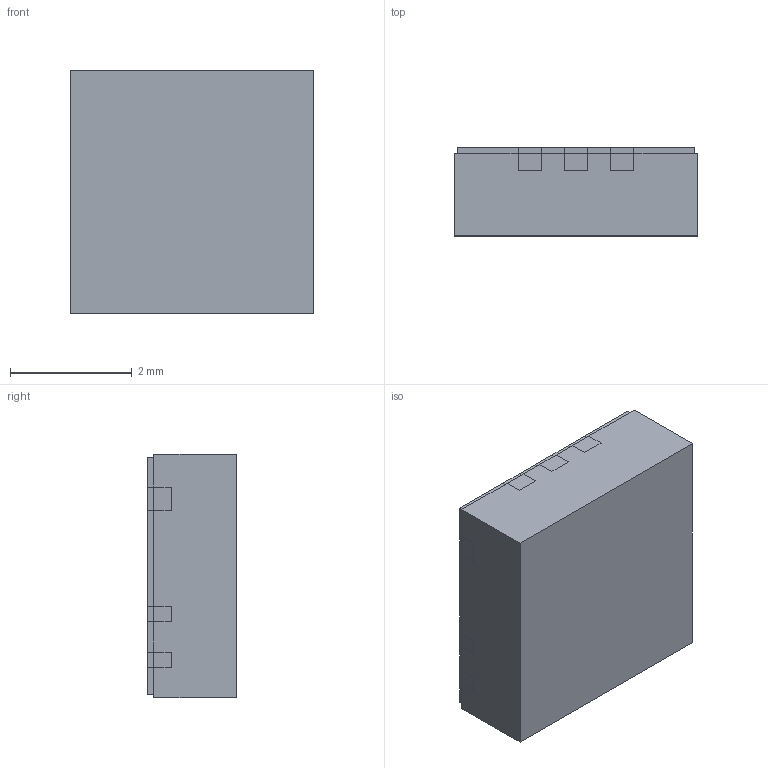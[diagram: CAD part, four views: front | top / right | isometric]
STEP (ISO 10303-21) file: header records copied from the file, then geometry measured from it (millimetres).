
FILE_DESCRIPTION (( 'STEP AP214' ), '1' );
FILE_NAME ('EZ-372201_Customer_Model_110723.STEP', '2023-11-09T15:19:03', ( '' ), ( '' ), 'SwSTEP 2.0', 'SolidWorks 2019', '' );
FILE_SCHEMA (( 'AUTOMOTIVE_DESIGN' ));
Length unit declared in the file: millimetre
Products named in the file (3): EZ-372201_Customer_Model_110723; Mold_EZ_372201; LF_EZ_372201
Assembly tree (2 placements, depth 2):
  EZ-372201_Customer_Model_110723
    LF_EZ_372201
    Mold_EZ_372201
Bounding box: 4 x 1.45 x 4 mm (x, y, z)
Volume: 23.1 mm3; surface area: 73.4 mm2
Topology: 7 solids, 7 shells, 276 faces, 786 edges, 524 vertices
Faces by surface type: plane 232, cylinder 44
Entity records: 9033 total; most frequent: CARTESIAN_POINT 1591, ORIENTED_EDGE 1572, DIRECTION 1436, EDGE_CURVE 786, VECTOR 698, LINE 698, VERTEX_POINT 524, AXIS2_PLACEMENT_3D 369
